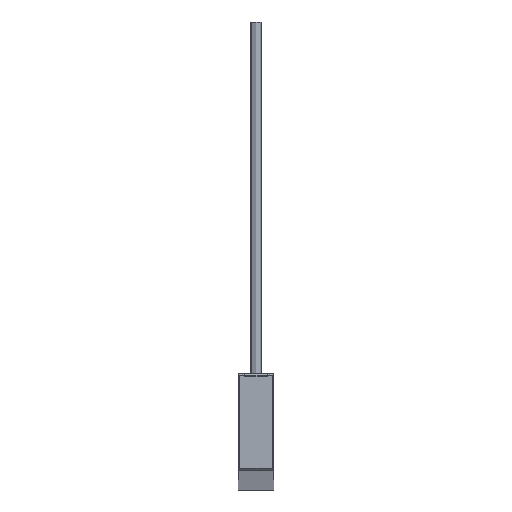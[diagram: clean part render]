
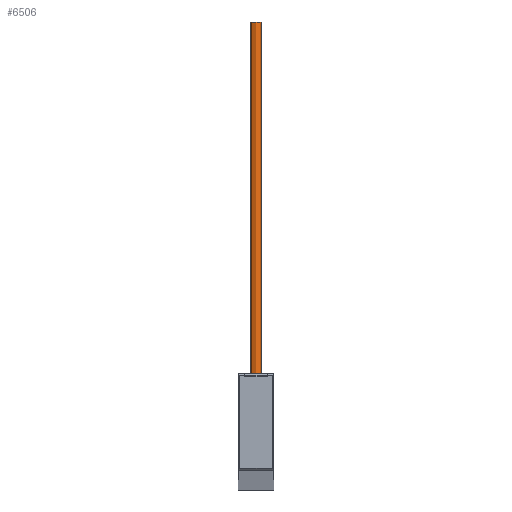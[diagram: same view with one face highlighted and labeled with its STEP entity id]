
A CAD part, top view. The second image highlights one B-rep face of the part: STEP entity #6506.
In plain terms, the highlighted cylindrical face has radius 1.5 mm (diameter 3 mm), a partial arc.
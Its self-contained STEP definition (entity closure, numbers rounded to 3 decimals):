
#358 = CYLINDRICAL_SURFACE ( 'NONE', #4742, 1.5 ) ;
#446 = AXIS2_PLACEMENT_3D ( 'NONE', #1439, #4946, #888 ) ;
#580 = VECTOR ( 'NONE', #5178, 1000. ) ;
#772 = LINE ( 'NONE', #7457, #580 ) ;
#888 = DIRECTION ( 'NONE',  ( 0., 0., 1. ) ) ;
#1058 = CARTESIAN_POINT ( 'NONE',  ( -36.784, 124.406, 2410. ) ) ;
#1062 = ORIENTED_EDGE ( 'NONE', *, *, #3434, .F. ) ;
#1439 = CARTESIAN_POINT ( 'NONE',  ( -36.784, 25.406, 2410. ) ) ;
#1556 = EDGE_CURVE ( 'NONE', #5491, #4607, #5188, .T. ) ;
#1634 = VERTEX_POINT ( 'NONE', #4869 ) ;
#1760 = DIRECTION ( 'NONE',  ( 0., -1., 0. ) ) ;
#2008 = CARTESIAN_POINT ( 'NONE',  ( -36.784, 124.406, 2410. ) ) ;
#2150 = CARTESIAN_POINT ( 'NONE',  ( -38.284, 25.406, 2410. ) ) ;
#2594 = DIRECTION ( 'NONE',  ( 1., 0., 0. ) ) ;
#2778 = EDGE_CURVE ( 'NONE', #1634, #4607, #4910, .T. ) ;
#2799 = DIRECTION ( 'NONE',  ( -1., 0., 0. ) ) ;
#2939 = ORIENTED_EDGE ( 'NONE', *, *, #1556, .F. ) ;
#3285 = VERTEX_POINT ( 'NONE', #4198 ) ;
#3335 = VECTOR ( 'NONE', #1760, 1000. ) ;
#3434 = EDGE_CURVE ( 'NONE', #1634, #3285, #6872, .T. ) ;
#4198 = CARTESIAN_POINT ( 'NONE',  ( -35.284, 124.406, 2410. ) ) ;
#4235 = CARTESIAN_POINT ( 'NONE',  ( -35.284, 25.406, 2410. ) ) ;
#4607 = VERTEX_POINT ( 'NONE', #2150 ) ;
#4742 = AXIS2_PLACEMENT_3D ( 'NONE', #1058, #6273, #2799 ) ;
#4869 = CARTESIAN_POINT ( 'NONE',  ( -38.284, 124.406, 2410. ) ) ;
#4910 = LINE ( 'NONE', #5267, #3335 ) ;
#4946 = DIRECTION ( 'NONE',  ( 0., -1., 0. ) ) ;
#5178 = DIRECTION ( 'NONE',  ( 0., -1., 0. ) ) ;
#5188 = CIRCLE ( 'NONE', #446, 1.5 ) ;
#5267 = CARTESIAN_POINT ( 'NONE',  ( -38.284, 124.406, 2410. ) ) ;
#5300 = EDGE_CURVE ( 'NONE', #3285, #5491, #772, .T. ) ;
#5463 = ORIENTED_EDGE ( 'NONE', *, *, #5300, .F. ) ;
#5491 = VERTEX_POINT ( 'NONE', #4235 ) ;
#5530 = AXIS2_PLACEMENT_3D ( 'NONE', #2008, #6069, #2594 ) ;
#6069 = DIRECTION ( 'NONE',  ( 0., 1., 0. ) ) ;
#6273 = DIRECTION ( 'NONE',  ( 0., -1., 0. ) ) ;
#6347 = ORIENTED_EDGE ( 'NONE', *, *, #2778, .T. ) ;
#6506 = ADVANCED_FACE ( 'NONE', ( #6533 ), #358, .T. ) ;
#6533 = FACE_OUTER_BOUND ( 'NONE', #7158, .T. ) ;
#6872 = CIRCLE ( 'NONE', #5530, 1.5 ) ;
#7158 = EDGE_LOOP ( 'NONE', ( #5463, #1062, #6347, #2939 ) ) ;
#7457 = CARTESIAN_POINT ( 'NONE',  ( -35.284, 124.406, 2410. ) ) ;
